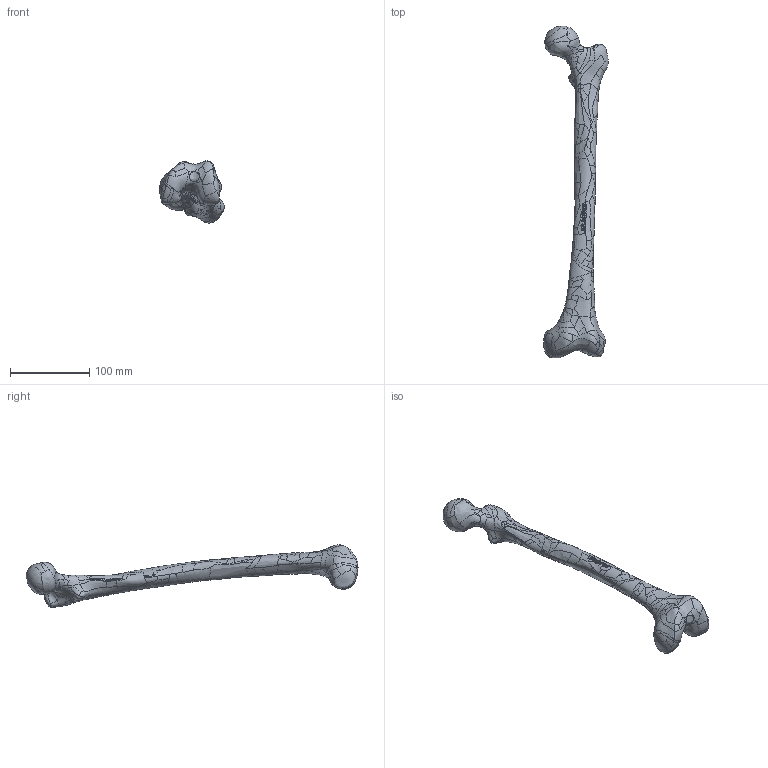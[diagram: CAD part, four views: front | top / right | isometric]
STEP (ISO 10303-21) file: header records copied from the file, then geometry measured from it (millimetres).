
FILE_DESCRIPTION (( 'STEP AP203' ), '1' );
FILE_NAME ('3447.STEP', '2025-12-09T12:48:42', ( '' ), ( '' ), 'SwSTEP 2.0', 'SolidWorks 2024', '' );
FILE_SCHEMA (( 'CONFIG_CONTROL_DESIGN' ));
Products named in the file (1): 3447
Bounding box: 81.67 x 418.87 x 78.87 mm (x, y, z)
Volume: 359136.4 mm3; surface area: 49245.1 mm2
Topology: 1 solids, 1 shells, 593 faces, 1549 edges, 960 vertices
Faces by surface type: bspline 589, plane 4
Entity records: 1064487 total; most frequent: CARTESIAN_POINT 1054859, ORIENTED_EDGE 3098, B_SPLINE_CURVE_WITH_KNOTS 1549, EDGE_CURVE 1549, VERTEX_POINT 960, EDGE_LOOP 595, FACE_OUTER_BOUND 593, ADVANCED_FACE 593
